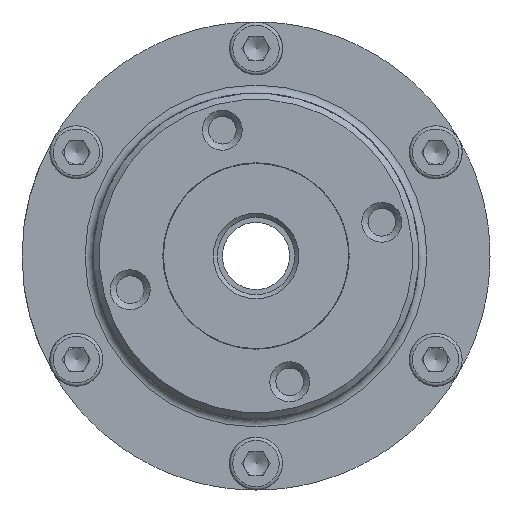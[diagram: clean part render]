
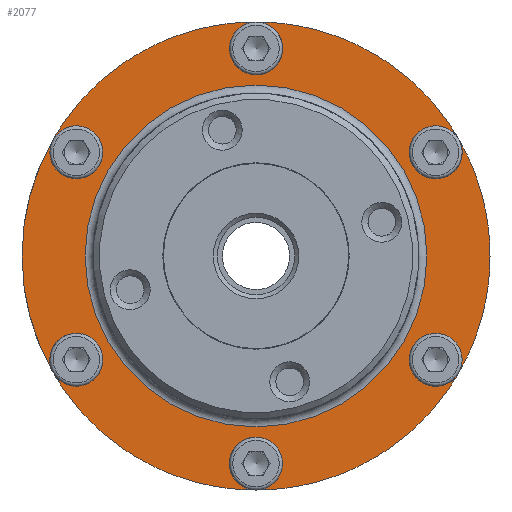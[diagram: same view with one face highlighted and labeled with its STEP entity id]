
A CAD part, left-side view. The second image highlights one B-rep face of the part: STEP entity #2077.
In plain terms, the highlighted planar face has unit normal (-1, 0, 0).
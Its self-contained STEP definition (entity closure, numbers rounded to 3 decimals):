
#2077 = ADVANCED_FACE( '', ( #4549, #4550 ), #4551, .F. );
#4549 = FACE_OUTER_BOUND( '', #7223, .T. );
#4550 = FACE_BOUND( '', #7224, .T. );
#4551 = PLANE( '', #7225 );
#7223 = EDGE_LOOP( '', ( #12857, #12858, #12859, #12860, #12861, #12862, #12863, #12864, #12865, #12866, #12867, #12868 ) );
#7224 = EDGE_LOOP( '', ( #12869 ) );
#7225 = AXIS2_PLACEMENT_3D( '', #12870, #12871, #12872 );
#12857 = ORIENTED_EDGE( '', *, *, #15169, .F. );
#12858 = ORIENTED_EDGE( '', *, *, #14179, .T. );
#12859 = ORIENTED_EDGE( '', *, *, #14398, .F. );
#12860 = ORIENTED_EDGE( '', *, *, #14178, .T. );
#12861 = ORIENTED_EDGE( '', *, *, #14396, .F. );
#12862 = ORIENTED_EDGE( '', *, *, #14183, .T. );
#12863 = ORIENTED_EDGE( '', *, *, #15261, .F. );
#12864 = ORIENTED_EDGE( '', *, *, #14182, .T. );
#12865 = ORIENTED_EDGE( '', *, *, #14670, .F. );
#12866 = ORIENTED_EDGE( '', *, *, #14181, .T. );
#12867 = ORIENTED_EDGE( '', *, *, #14928, .F. );
#12868 = ORIENTED_EDGE( '', *, *, #14180, .T. );
#12869 = ORIENTED_EDGE( '', *, *, #13910, .F. );
#12870 = CARTESIAN_POINT( '', ( -11.5, 0., 57.5 ) );
#12871 = DIRECTION( '', ( 1., 0., 0. ) );
#12872 = DIRECTION( '', ( 0., 1., 0. ) );
#13910 = EDGE_CURVE( '', #16467, #16467, #16468, .T. );
#14178 = EDGE_CURVE( '', #16913, #16914, #16915, .T. );
#14179 = EDGE_CURVE( '', #16916, #16913, #16917, .T. );
#14180 = EDGE_CURVE( '', #16918, #16916, #16919, .T. );
#14181 = EDGE_CURVE( '', #16920, #16918, #16921, .T. );
#14182 = EDGE_CURVE( '', #16922, #16920, #16923, .T. );
#14183 = EDGE_CURVE( '', #16914, #16922, #16924, .T. );
#14396 = EDGE_CURVE( '', #16914, #16914, #17271, .T. );
#14398 = EDGE_CURVE( '', #16913, #16913, #17273, .T. );
#14670 = EDGE_CURVE( '', #16920, #16920, #17714, .T. );
#14928 = EDGE_CURVE( '', #16918, #16918, #18090, .T. );
#15169 = EDGE_CURVE( '', #16916, #16916, #18420, .T. );
#15261 = EDGE_CURVE( '', #16922, #16922, #18546, .T. );
#16467 = VERTEX_POINT( '', #20548 );
#16468 = CIRCLE( '', #20549, 42. );
#16913 = VERTEX_POINT( '', #21271 );
#16914 = VERTEX_POINT( '', #21272 );
#16915 = CIRCLE( '', #21273, 57.5 );
#16916 = VERTEX_POINT( '', #21274 );
#16917 = CIRCLE( '', #21275, 57.5 );
#16918 = VERTEX_POINT( '', #21276 );
#16919 = CIRCLE( '', #21277, 57.5 );
#16920 = VERTEX_POINT( '', #21278 );
#16921 = CIRCLE( '', #21279, 57.5 );
#16922 = VERTEX_POINT( '', #21280 );
#16923 = CIRCLE( '', #21281, 57.5 );
#16924 = CIRCLE( '', #21282, 57.5 );
#17271 = CIRCLE( '', #22072, 6.5 );
#17273 = CIRCLE( '', #22074, 6.5 );
#17714 = CIRCLE( '', #22920, 6.5 );
#18090 = CIRCLE( '', #23739, 6.5 );
#18420 = CIRCLE( '', #24323, 6.5 );
#18546 = CIRCLE( '', #24564, 6.5 );
#20548 = CARTESIAN_POINT( '', ( -11.5, 0., 42. ) );
#20549 = AXIS2_PLACEMENT_3D( '', #26409, #26410, #26411 );
#21271 = CARTESIAN_POINT( '', ( -11.5, 0., 57.5 ) );
#21272 = CARTESIAN_POINT( '', ( -11.5, 49.796, 28.75 ) );
#21273 = AXIS2_PLACEMENT_3D( '', #26809, #26810, #26811 );
#21274 = CARTESIAN_POINT( '', ( -11.5, -49.796, 28.75 ) );
#21275 = AXIS2_PLACEMENT_3D( '', #26812, #26813, #26814 );
#21276 = CARTESIAN_POINT( '', ( -11.5, -49.796, -28.75 ) );
#21277 = AXIS2_PLACEMENT_3D( '', #26815, #26816, #26817 );
#21278 = CARTESIAN_POINT( '', ( -11.5, 0., -57.5 ) );
#21279 = AXIS2_PLACEMENT_3D( '', #26818, #26819, #26820 );
#21280 = CARTESIAN_POINT( '', ( -11.5, 49.796, -28.75 ) );
#21281 = AXIS2_PLACEMENT_3D( '', #26821, #26822, #26823 );
#21282 = AXIS2_PLACEMENT_3D( '', #26824, #26825, #26826 );
#22072 = AXIS2_PLACEMENT_3D( '', #27082, #27083, #27084 );
#22074 = AXIS2_PLACEMENT_3D( '', #27085, #27086, #27087 );
#22920 = AXIS2_PLACEMENT_3D( '', #27505, #27506, #27507 );
#23739 = AXIS2_PLACEMENT_3D( '', #27775, #27776, #27777 );
#24323 = AXIS2_PLACEMENT_3D( '', #28092, #28093, #28094 );
#24564 = AXIS2_PLACEMENT_3D( '', #28183, #28184, #28185 );
#26409 = CARTESIAN_POINT( '', ( -11.5, 0., 0. ) );
#26410 = DIRECTION( '', ( -1., 0., 0. ) );
#26411 = DIRECTION( '', ( 0., 0., 1. ) );
#26809 = CARTESIAN_POINT( '', ( -11.5, 0., 0. ) );
#26810 = DIRECTION( '', ( -1., 0., 0. ) );
#26811 = DIRECTION( '', ( 0., 0., -1. ) );
#26812 = CARTESIAN_POINT( '', ( -11.5, 0., 0. ) );
#26813 = DIRECTION( '', ( -1., 0., 0. ) );
#26814 = DIRECTION( '', ( 0., 0., -1. ) );
#26815 = CARTESIAN_POINT( '', ( -11.5, 0., 0. ) );
#26816 = DIRECTION( '', ( -1., 0., 0. ) );
#26817 = DIRECTION( '', ( 0., 0., -1. ) );
#26818 = CARTESIAN_POINT( '', ( -11.5, 0., 0. ) );
#26819 = DIRECTION( '', ( -1., 0., 0. ) );
#26820 = DIRECTION( '', ( 0., 0., -1. ) );
#26821 = CARTESIAN_POINT( '', ( -11.5, 0., 0. ) );
#26822 = DIRECTION( '', ( -1., 0., 0. ) );
#26823 = DIRECTION( '', ( 0., 0., -1. ) );
#26824 = CARTESIAN_POINT( '', ( -11.5, 0., 0. ) );
#26825 = DIRECTION( '', ( -1., 0., 0. ) );
#26826 = DIRECTION( '', ( 0., 0., -1. ) );
#27082 = CARTESIAN_POINT( '', ( -11.5, 44.167, 25.5 ) );
#27083 = DIRECTION( '', ( -1., 0., 0. ) );
#27084 = DIRECTION( '', ( 0., -0.866, -0.5 ) );
#27085 = CARTESIAN_POINT( '', ( -11.5, 0., 51. ) );
#27086 = DIRECTION( '', ( -1., 0., 0. ) );
#27087 = DIRECTION( '', ( 0., 0., -1. ) );
#27505 = CARTESIAN_POINT( '', ( -11.5, 0., -51. ) );
#27506 = DIRECTION( '', ( -1., 0., 0. ) );
#27507 = DIRECTION( '', ( 0., 0., 1. ) );
#27775 = CARTESIAN_POINT( '', ( -11.5, -44.167, -25.5 ) );
#27776 = DIRECTION( '', ( -1., 0., 0. ) );
#27777 = DIRECTION( '', ( 0., 0.866, 0.5 ) );
#28092 = CARTESIAN_POINT( '', ( -11.5, -44.167, 25.5 ) );
#28093 = DIRECTION( '', ( -1., 0., 0. ) );
#28094 = DIRECTION( '', ( 0., 0.866, -0.5 ) );
#28183 = CARTESIAN_POINT( '', ( -11.5, 44.167, -25.5 ) );
#28184 = DIRECTION( '', ( -1., 0., 0. ) );
#28185 = DIRECTION( '', ( 0., -0.866, 0.5 ) );
